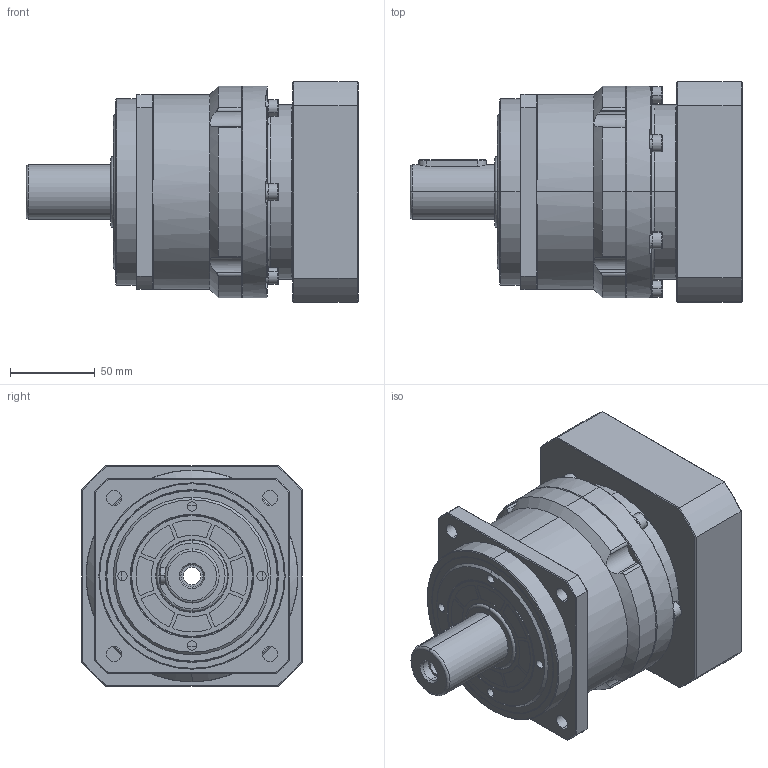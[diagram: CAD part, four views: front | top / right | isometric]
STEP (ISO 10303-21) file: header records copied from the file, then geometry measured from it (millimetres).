
FILE_DESCRIPTION (( 'STEP AP203' ), '1' );
FILE_NAME ('KS115-5-110-24-58-M8-145.STEP', '2020-08-12T01:02:41', ( '微软用户' ), ( '微软中国' ), 'SwSTEP 2.0', 'SolidWorks 2008', '' );
FILE_SCHEMA (( 'CONFIG_CONTROL_DESIGN' ));
Length unit declared in the file: millimetre
Products named in the file (1): KS115-5-110-24-58-M8-145
Bounding box: 196 x 130 x 130 mm (x, y, z)
Surface area: 151049.3 mm2 (no closed solid volume)
Topology: 0 solids, 34 shells, 482 faces, 1484 edges, 1015 vertices
Faces by surface type: cylinder 186, plane 184, cone 76, torus 36
Entity records: 17376 total; most frequent: CARTESIAN_POINT 3987, DIRECTION 2980, ORIENTED_EDGE 2438, EDGE_CURVE 1479, AXIS2_PLACEMENT_3D 1169, VERTEX_POINT 1014, CIRCLE 686, VECTOR 642
